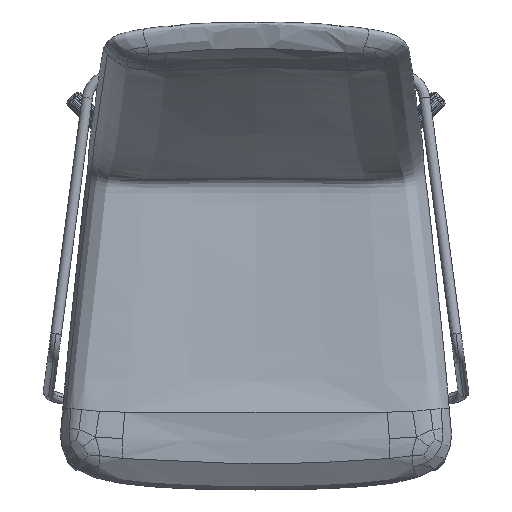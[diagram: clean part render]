
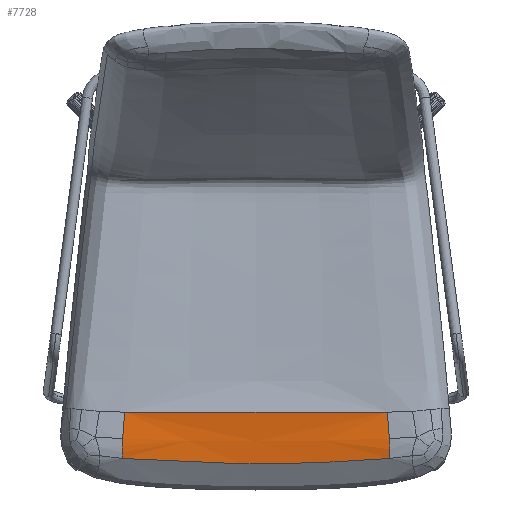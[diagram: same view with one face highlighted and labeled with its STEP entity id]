
A CAD part, top view. The second image highlights one B-rep face of the part: STEP entity #7728.
In plain terms, the highlighted free-form (B-spline) face has degree [3, 3] with [5, 11] control points.
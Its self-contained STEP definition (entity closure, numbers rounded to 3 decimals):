
#7728=ADVANCED_FACE('',(#15079),#80969,.T.);
#15079=FACE_OUTER_BOUND('',#22450,.T.);
#22450=EDGE_LOOP('',(#45875,#45876,#45877,#45878,#45879,#45880));
#45875=ORIENTED_EDGE('',*,*,#57700,.F.);
#45876=ORIENTED_EDGE('',*,*,#57694,.F.);
#45877=ORIENTED_EDGE('',*,*,#57742,.T.);
#45878=ORIENTED_EDGE('',*,*,#57609,.F.);
#45879=ORIENTED_EDGE('',*,*,#57616,.F.);
#45880=ORIENTED_EDGE('',*,*,#57743,.T.);
#57609=EDGE_CURVE('',#73673,#73670,#69174,.T.);
#57616=EDGE_CURVE('',#73676,#73673,#69181,.T.);
#57694=EDGE_CURVE('',#73730,#73731,#69259,.T.);
#57700=EDGE_CURVE('',#73731,#73734,#69265,.T.);
#57742=EDGE_CURVE('',#73730,#73670,#69307,.T.);
#57743=EDGE_CURVE('',#73676,#73734,#69308,.T.);
#69174=B_SPLINE_CURVE_WITH_KNOTS('',3,(#147060,#147061,#147062,#147063),
 .UNSPECIFIED.,.F.,.F.,(4,4),(1.,2.),.UNSPECIFIED.);
#69181=B_SPLINE_CURVE_WITH_KNOTS('',3,(#147102,#147103,#147104,#147105),
 .UNSPECIFIED.,.F.,.F.,(4,4),(0.,1.),.UNSPECIFIED.);
#69259=B_SPLINE_CURVE_WITH_KNOTS('',3,(#147538,#147539,#147540,#147541),
 .UNSPECIFIED.,.F.,.F.,(4,4),(-2.,-1.),.UNSPECIFIED.);
#69265=B_SPLINE_CURVE_WITH_KNOTS('',3,(#147571,#147572,#147573,#147574),
 .UNSPECIFIED.,.F.,.F.,(4,4),(-1.,0.),.UNSPECIFIED.);
#69307=B_SPLINE_CURVE_WITH_KNOTS('',3,(#147806,#147807,#147808,#147809,
#147810,#147811,#147812,#147813,#147814,#147815,#147816),.UNSPECIFIED.,
 .F.,.F.,(4,1,1,1,1,1,1,1,4),(0.,1.,2.,3.,4.,5.,6.,7.,8.),.UNSPECIFIED.);
#69308=B_SPLINE_CURVE_WITH_KNOTS('',3,(#147817,#147818,#147819,#147820,
#147821,#147822,#147823,#147824,#147825,#147826,#147827),.UNSPECIFIED.,
 .F.,.F.,(4,1,1,1,1,1,1,1,4),(-8.,-7.,-6.,-5.,-4.,-3.,-2.,-1.,0.),
 .UNSPECIFIED.);
#73670=VERTEX_POINT('',#146633);
#73673=VERTEX_POINT('',#146636);
#73676=VERTEX_POINT('',#146639);
#73730=VERTEX_POINT('',#146693);
#73731=VERTEX_POINT('',#146694);
#73734=VERTEX_POINT('',#146697);
#80969=B_SPLINE_SURFACE_WITH_KNOTS('',3,3,((#144460,#144461,#144462,#144463,
#144464,#144465,#144466,#144467,#144468,#144469,#144470),(#144471,#144472,
#144473,#144474,#144475,#144476,#144477,#144478,#144479,#144480,#144481),
(#144482,#144483,#144484,#144485,#144486,#144487,#144488,#144489,#144490,
#144491,#144492),(#144493,#144494,#144495,#144496,#144497,#144498,#144499,
#144500,#144501,#144502,#144503),(#144504,#144505,#144506,#144507,#144508,
#144509,#144510,#144511,#144512,#144513,#144514)),.UNSPECIFIED.,.F.,.F.,
 .F.,(4,1,4),(4,1,1,1,1,1,1,1,4),(0.,1.,2.),(0.,1.,2.,3.,4.,5.,6.,7.,8.),
 .UNSPECIFIED.);
#144460=CARTESIAN_POINT('',(2064.531,-1296.968,584.504));
#144461=CARTESIAN_POINT('',(2078.966,-1297.191,583.669));
#144462=CARTESIAN_POINT('',(2110.445,-1297.556,581.811));
#144463=CARTESIAN_POINT('',(2161.801,-1297.92,579.279));
#144464=CARTESIAN_POINT('',(2213.603,-1298.161,577.82));
#144465=CARTESIAN_POINT('',(2265.628,-1298.251,577.359));
#144466=CARTESIAN_POINT('',(2317.653,-1298.161,577.82));
#144467=CARTESIAN_POINT('',(2369.455,-1297.92,579.279));
#144468=CARTESIAN_POINT('',(2420.812,-1297.556,581.811));
#144469=CARTESIAN_POINT('',(2452.291,-1297.191,583.669));
#144470=CARTESIAN_POINT('',(2466.726,-1296.968,584.504));
#144471=CARTESIAN_POINT('',(2063.135,-1311.73,585.511));
#144472=CARTESIAN_POINT('',(2077.75,-1312.087,584.687));
#144473=CARTESIAN_POINT('',(2109.669,-1312.681,582.84));
#144474=CARTESIAN_POINT('',(2161.607,-1313.291,580.306));
#144475=CARTESIAN_POINT('',(2213.603,-1313.688,578.839));
#144476=CARTESIAN_POINT('',(2265.628,-1313.834,578.372));
#144477=CARTESIAN_POINT('',(2317.653,-1313.688,578.839));
#144478=CARTESIAN_POINT('',(2369.649,-1313.291,580.306));
#144479=CARTESIAN_POINT('',(2421.588,-1312.681,582.84));
#144480=CARTESIAN_POINT('',(2453.506,-1312.087,584.687));
#144481=CARTESIAN_POINT('',(2468.121,-1311.73,585.511));
#144482=CARTESIAN_POINT('',(2060.624,-1338.799,587.141));
#144483=CARTESIAN_POINT('',(2075.603,-1339.553,586.318));
#144484=CARTESIAN_POINT('',(2108.331,-1340.833,584.451));
#144485=CARTESIAN_POINT('',(2161.272,-1342.176,581.861));
#144486=CARTESIAN_POINT('',(2213.603,-1343.043,580.358));
#144487=CARTESIAN_POINT('',(2265.628,-1343.358,579.878));
#144488=CARTESIAN_POINT('',(2317.653,-1343.043,580.358));
#144489=CARTESIAN_POINT('',(2369.984,-1342.176,581.861));
#144490=CARTESIAN_POINT('',(2422.925,-1340.833,584.451));
#144491=CARTESIAN_POINT('',(2455.653,-1339.553,586.318));
#144492=CARTESIAN_POINT('',(2470.633,-1338.799,587.141));
#144493=CARTESIAN_POINT('',(2061.035,-1359.449,585.535));
#144494=CARTESIAN_POINT('',(2075.149,-1360.745,584.751));
#144495=CARTESIAN_POINT('',(2107.342,-1362.883,582.861));
#144496=CARTESIAN_POINT('',(2161.025,-1365.003,580.123));
#144497=CARTESIAN_POINT('',(2213.603,-1366.308,578.54));
#144498=CARTESIAN_POINT('',(2265.628,-1366.757,578.038));
#144499=CARTESIAN_POINT('',(2317.654,-1366.308,578.54));
#144500=CARTESIAN_POINT('',(2370.231,-1365.003,580.123));
#144501=CARTESIAN_POINT('',(2423.914,-1362.883,582.861));
#144502=CARTESIAN_POINT('',(2456.107,-1360.745,584.751));
#144503=CARTESIAN_POINT('',(2470.222,-1359.449,585.535));
#144504=CARTESIAN_POINT('',(2060.862,-1367.932,583.399));
#144505=CARTESIAN_POINT('',(2074.778,-1369.437,582.617));
#144506=CARTESIAN_POINT('',(2106.915,-1371.907,580.69));
#144507=CARTESIAN_POINT('',(2160.918,-1374.314,577.856));
#144508=CARTESIAN_POINT('',(2213.603,-1375.745,576.222));
#144509=CARTESIAN_POINT('',(2265.628,-1376.216,575.705));
#144510=CARTESIAN_POINT('',(2317.654,-1375.745,576.222));
#144511=CARTESIAN_POINT('',(2370.338,-1374.314,577.856));
#144512=CARTESIAN_POINT('',(2424.341,-1371.907,580.69));
#144513=CARTESIAN_POINT('',(2456.479,-1369.437,582.617));
#144514=CARTESIAN_POINT('',(2470.395,-1367.932,583.399));
#146633=CARTESIAN_POINT('',(2470.395,-1367.932,583.399));
#146636=CARTESIAN_POINT('',(2469.902,-1337.194,586.332));
#146639=CARTESIAN_POINT('',(2466.726,-1296.968,584.504));
#146693=CARTESIAN_POINT('',(2060.862,-1367.932,583.399));
#146694=CARTESIAN_POINT('',(2061.355,-1337.194,586.332));
#146697=CARTESIAN_POINT('',(2064.531,-1296.968,584.504));
#147060=CARTESIAN_POINT('',(2469.902,-1337.194,586.332));
#147061=CARTESIAN_POINT('',(2470.427,-1349.124,586.338));
#147062=CARTESIAN_POINT('',(2470.222,-1359.449,585.535));
#147063=CARTESIAN_POINT('',(2470.395,-1367.932,583.399));
#147102=CARTESIAN_POINT('',(2466.726,-1296.968,584.504));
#147103=CARTESIAN_POINT('',(2468.121,-1311.73,585.511));
#147104=CARTESIAN_POINT('',(2469.377,-1325.265,586.326));
#147105=CARTESIAN_POINT('',(2469.902,-1337.194,586.332));
#147538=CARTESIAN_POINT('',(2060.862,-1367.932,583.399));
#147539=CARTESIAN_POINT('',(2061.035,-1359.449,585.535));
#147540=CARTESIAN_POINT('',(2060.829,-1349.124,586.338));
#147541=CARTESIAN_POINT('',(2061.355,-1337.194,586.332));
#147571=CARTESIAN_POINT('',(2061.355,-1337.194,586.332));
#147572=CARTESIAN_POINT('',(2061.88,-1325.265,586.326));
#147573=CARTESIAN_POINT('',(2063.135,-1311.73,585.511));
#147574=CARTESIAN_POINT('',(2064.531,-1296.968,584.504));
#147806=CARTESIAN_POINT('',(2060.862,-1367.932,583.399));
#147807=CARTESIAN_POINT('',(2074.778,-1369.437,582.617));
#147808=CARTESIAN_POINT('',(2106.915,-1371.907,580.69));
#147809=CARTESIAN_POINT('',(2160.918,-1374.314,577.856));
#147810=CARTESIAN_POINT('',(2213.603,-1375.745,576.222));
#147811=CARTESIAN_POINT('',(2265.628,-1376.216,575.705));
#147812=CARTESIAN_POINT('',(2317.654,-1375.745,576.222));
#147813=CARTESIAN_POINT('',(2370.338,-1374.314,577.856));
#147814=CARTESIAN_POINT('',(2424.341,-1371.907,580.69));
#147815=CARTESIAN_POINT('',(2456.479,-1369.437,582.617));
#147816=CARTESIAN_POINT('',(2470.395,-1367.932,583.399));
#147817=CARTESIAN_POINT('',(2466.726,-1296.968,584.504));
#147818=CARTESIAN_POINT('',(2452.291,-1297.191,583.669));
#147819=CARTESIAN_POINT('',(2420.812,-1297.556,581.811));
#147820=CARTESIAN_POINT('',(2369.455,-1297.92,579.279));
#147821=CARTESIAN_POINT('',(2317.653,-1298.161,577.82));
#147822=CARTESIAN_POINT('',(2265.628,-1298.251,577.359));
#147823=CARTESIAN_POINT('',(2213.603,-1298.161,577.82));
#147824=CARTESIAN_POINT('',(2161.801,-1297.92,579.279));
#147825=CARTESIAN_POINT('',(2110.445,-1297.556,581.811));
#147826=CARTESIAN_POINT('',(2078.966,-1297.191,583.669));
#147827=CARTESIAN_POINT('',(2064.531,-1296.968,584.504));
